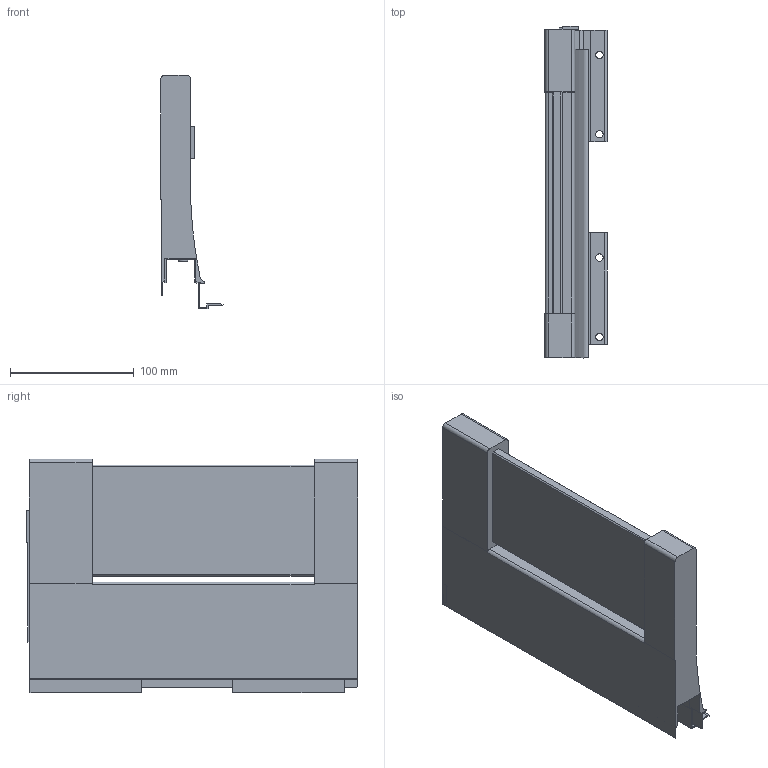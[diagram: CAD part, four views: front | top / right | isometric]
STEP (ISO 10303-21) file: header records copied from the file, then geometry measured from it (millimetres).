
FILE_DESCRIPTION (( 'STEP AP214' ), '1' );
FILE_NAME ('_XP Agantis Dekorseite H95 NL275 LI Top Glashalter.step', '2010-07-08T06:15:50', ( 'grass' ), ( '' ), 'SwSTEP 2.0', 'SolidWorks 2010', '' );
FILE_SCHEMA (( 'AUTOMOTIVE_DESIGN' ));
Length unit declared in the file: millimetre
Products named in the file (1): _XP Agantis Dekorseite H95 NL275 LI Top Glashalter
Bounding box: 50.11 x 267.6 x 188.7 mm (x, y, z)
Volume: 704481.3 mm3; surface area: 153583.4 mm2
Topology: 1 solids, 1 shells, 134 faces, 392 edges, 257 vertices
Faces by surface type: plane 107, cylinder 27
Entity records: 4450 total; most frequent: ORIENTED_EDGE 784, CARTESIAN_POINT 784, DIRECTION 718, EDGE_CURVE 392, LINE 336, VECTOR 336, VERTEX_POINT 257, AXIS2_PLACEMENT_3D 191
